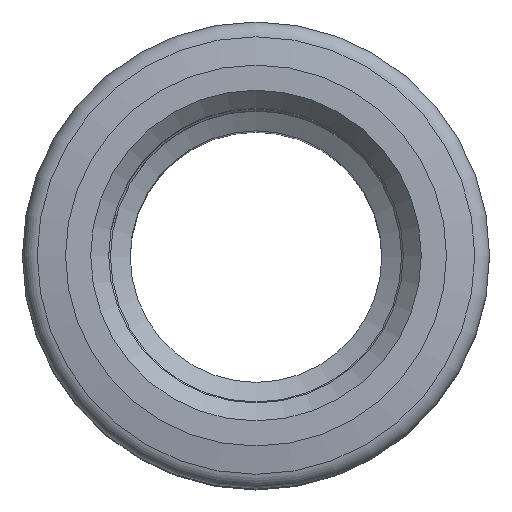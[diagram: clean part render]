
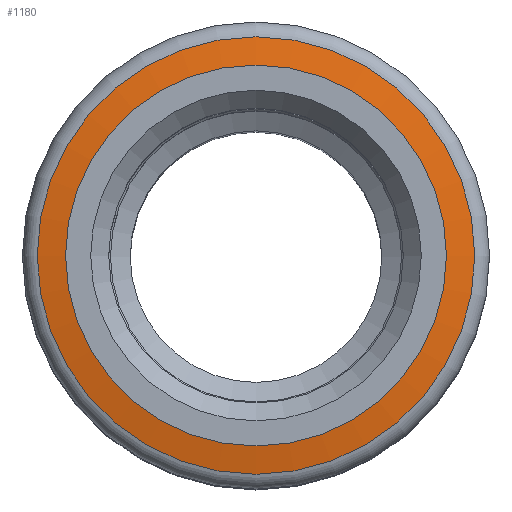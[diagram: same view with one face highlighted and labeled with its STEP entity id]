
A CAD part, top view. The second image highlights one B-rep face of the part: STEP entity #1180.
In plain terms, the highlighted conical face has half-angle 80 degrees and reference radius 6.087 mm.
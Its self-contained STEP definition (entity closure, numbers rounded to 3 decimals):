
#1180=ADVANCED_FACE('', (#1190,#1200), #1210, .T.);
#3790=AXIS2_PLACEMENT_3D('Ax2Pl3d', #3800, #3810, #3820);
#3830=AXIS2_PLACEMENT_3D('Ax2Pl3d', #3840, #3850, #3860);
#3870=AXIS2_PLACEMENT_3D('Ax2Pl3d', #3880, #3890, #3900);
#3800=CARTESIAN_POINT('HicPkt', (14.79,12.003,
44.054));
#4770=CARTESIAN_POINT('', (20.877,12.003,44.054));
#3840=CARTESIAN_POINT('HicPkt', (14.79,12.003,
44.054));
#3880=CARTESIAN_POINT('HicPkt', (14.79,12.003,
44.193));
#4780=CARTESIAN_POINT('', (20.09,12.003,44.193));
#5120=CIRCLE('Circle', #3790, 6.087);
#5130=CIRCLE('Circle', #3870, 5.3);
#1210=CONICAL_SURFACE('Kegel', #3830, 6.087, 
1.396);
#3810=DIRECTION('Axis', (0.,0.,1.));
#3820=DIRECTION('RefDirection', (1.,0.,-0.));
#3850=DIRECTION('Axis', (0.,0.,-1.));
#3860=DIRECTION('RefDirection', (-1.,-0.,0.));
#3890=DIRECTION('Axis', (0.,0.,1.));
#3900=DIRECTION('RefDirection', (1.,0.,-0.));
#6890=EDGE_CURVE('', #6900, #6900, #5120, .T.);
#6910=EDGE_CURVE('', #6920, #6920, #5130, .T.);
#8130=EDGE_LOOP('Edge_loop', (#8140));
#8150=EDGE_LOOP('Edge_loop', (#8160));
#1200=FACE_BOUND('', #8150, .T.);
#1190=FACE_OUTER_BOUND('Face_outer_bound', #8130, .T.);
#8140=ORIENTED_EDGE('', *, *, #6890, .T.);
#8160=ORIENTED_EDGE('', *, *, #6910, .F.);
#6900=VERTEX_POINT('', #4770);
#6920=VERTEX_POINT('', #4780);
